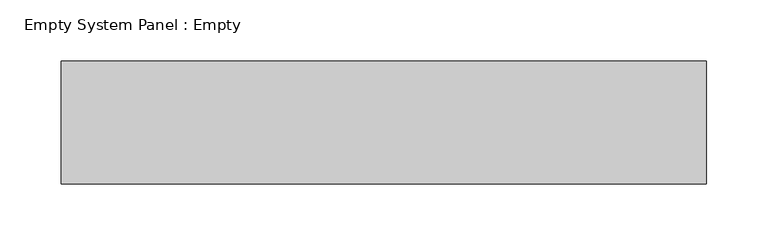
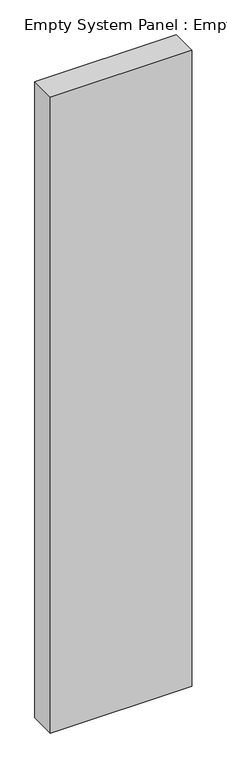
"""IFC4 building model written with IfcOpenShell, lengths in millimetres: plate geometry, Empty System Panel : Empty."""

import ifcopenshell
import ifcopenshell.guid

model = None  # the IFC model being written
_history = None  # IfcOwnerHistory: only IFC2X3 demands one
_inside = {}  # id of a spatial element -> (the spatial element, [elements in it])
_under = {}  # id of a project, library or spatial element -> (it, [spatial elements below it])
_declared = {}  # id of a project -> (the project, [libraries it declares])
_typed = {}  # id of a type object -> (the type object, [elements of that type])
_made_of = {}  # id of a material, layer set ... -> (it, [elements and type objects made of it])


def new_model(schema):
    """Start an empty IFC model of exactly this schema.

    Asked for "IFC4X3", IfcOpenShell would pick the latest addendum, in which some entities
    have other attributes; the version numbers below select the first issue.
    IFC2X3 requires an IfcOwnerHistory on every rooted entity: one is made here for all.
    """
    global model, _history
    if schema == "IFC4X3":
        model = ifcopenshell.file(schema_version=(4, 3, 0, 0))
    else:
        model = ifcopenshell.file(schema=schema)
    _inside.clear()
    _under.clear()
    _declared.clear()
    _typed.clear()
    _made_of.clear()
    _history = None
    if model.schema == "IFC2X3":
        org = make("IfcOrganization", Name="unknown")
        user = make(
            "IfcPersonAndOrganization",
            ThePerson=make("IfcPerson", FamilyName="unknown"),
            TheOrganization=org,
        )
        app = make(
            "IfcApplication",
            ApplicationDeveloper=org,
            Version="unknown",
            ApplicationFullName="unknown",
            ApplicationIdentifier="unknown",
        )
        _history = make(
            "IfcOwnerHistory",
            OwningUser=user,
            OwningApplication=app,
            ChangeAction="ADDED",
            CreationDate=0,
        )
    return model


def make(cls, **values):
    """One entity of the class cls with the attributes given. An attribute that is None is left unset."""
    return model.create_entity(
        cls, **{name: value for name, value in values.items() if value is not None}
    )


def rooted(cls, **values):
    """An entity with a GlobalId (a new one), such as an element, a storey or a relation."""
    return make(cls, GlobalId=ifcopenshell.guid.new(), OwnerHistory=_history, **values)


def si_unit(unit_type, name, prefix=None):
    """IfcSIUnit, for example si_unit("LENGTHUNIT", "METRE", prefix="MILLI")."""
    return make("IfcSIUnit", UnitType=unit_type, Prefix=prefix, Name=name)


def assignment(units):
    """IfcUnitAssignment: the units of a project."""
    return None if units is None else make("IfcUnitAssignment", Units=units)


def point(xyz):
    """IfcCartesianPoint."""
    return None if xyz is None else make("IfcCartesianPoint", Coordinates=xyz)


def direction(xyz):
    """IfcDirection."""
    return None if xyz is None else make("IfcDirection", DirectionRatios=xyz)


def frame(location, z_axis=None, x_axis=None):
    """IfcAxis2Placement3D, a coordinate frame: its origin and axes. An axis left out is left unset."""
    return make(
        "IfcAxis2Placement3D",
        Location=point(location),
        Axis=direction(z_axis),
        RefDirection=direction(x_axis),
    )


def origin():
    """The frame at (0, 0, 0) with its axes left unset."""
    return frame((0.0, 0.0, 0.0))


def origin_with_axes():
    """The frame at (0, 0, 0) with the z axis (0, 0, 1) and the x axis (1, 0, 0) written out."""
    return frame((0.0, 0.0, 0.0), z_axis=(0.0, 0.0, 1.0), x_axis=(1.0, 0.0, 0.0))


def place(relative_to, where):
    """IfcLocalPlacement: puts the frame where relative to a parent placement (None: the world)."""
    return make(
        "IfcLocalPlacement", PlacementRelTo=relative_to, RelativePlacement=where
    )


def context(
    kind, dimensions, precision=None, world=None, true_north=None, identifier=None
):
    """IfcGeometricRepresentationContext, for example the 3D "Model" context."""
    return make(
        "IfcGeometricRepresentationContext",
        ContextIdentifier=identifier,
        ContextType=kind,
        CoordinateSpaceDimension=dimensions,
        Precision=precision,
        WorldCoordinateSystem=world,
        TrueNorth=true_north,
    )


def project(units=None, contexts=None):
    """IfcProject with its units and contexts."""
    return rooted(
        "IfcProject",
        Name="project",
        RepresentationContexts=contexts,
        UnitsInContext=assignment(units),
    )


def spatial(cls, under=None, at=None, **own):
    """A site, building, storey or space (cls), placed at a placement, below another one or the project."""
    s = rooted(cls, ObjectPlacement=at, **own)
    if under is not None:
        _under.setdefault(under.id(), (under, []))[1].append(s)
    return s


def polyline(points):
    """IfcPolyline through the points."""
    return make("IfcPolyline", Points=[point(p) for p in points])


def outline(outer, holes=None, kind="AREA"):
    """IfcArbitraryClosedProfileDef: a profile drawn as a closed curve; with holes, ...WithVoids."""
    if holes is None:
        return make("IfcArbitraryClosedProfileDef", ProfileType=kind, OuterCurve=outer)
    return make(
        "IfcArbitraryProfileDefWithVoids",
        ProfileType=kind,
        OuterCurve=outer,
        InnerCurves=holes,
    )


def extrude(swept, where, along, depth):
    """IfcExtrudedAreaSolid: the profile swept, set in the frame where, extruded along a direction by depth."""
    return make(
        "IfcExtrudedAreaSolid",
        SweptArea=swept,
        Position=where,
        ExtrudedDirection=direction(along),
        Depth=depth,
    )


def shape(context_of_items, identifier, shape_type, items):
    """IfcShapeRepresentation: the items that make up one representation, for example the "Body"."""
    return make(
        "IfcShapeRepresentation",
        ContextOfItems=context_of_items,
        RepresentationIdentifier=identifier,
        RepresentationType=shape_type,
        Items=items,
    )


def source(mapping_origin, context_of_items, identifier, shape_type, items):
    """IfcRepresentationMap: a shape defined once, which mapped items show again and again."""
    return make(
        "IfcRepresentationMap",
        MappingOrigin=mapping_origin,
        MappedRepresentation=shape(context_of_items, identifier, shape_type, items),
    )


def transform(
    local_origin,
    x_axis=None,
    y_axis=None,
    z_axis=None,
    scale=None,
    scale2=None,
    scale3=None,
    uniform=True,
):
    """IfcCartesianTransformationOperator3D, or its non-uniform kind. x_axis, y_axis, z_axis: its Axis1, 2, 3."""
    if uniform:
        return make(
            "IfcCartesianTransformationOperator3D",
            Axis1=direction(x_axis),
            Axis2=direction(y_axis),
            LocalOrigin=point(local_origin),
            Scale=scale,
            Axis3=direction(z_axis),
        )
    return make(
        "IfcCartesianTransformationOperator3DnonUniform",
        Axis1=direction(x_axis),
        Axis2=direction(y_axis),
        LocalOrigin=point(local_origin),
        Scale=scale,
        Axis3=direction(z_axis),
        Scale2=scale2,
        Scale3=scale3,
    )


def mapped(mapping_source, mapping_target):
    """IfcMappedItem: shows the shape of a source again, moved by a transform."""
    return make(
        "IfcMappedItem", MappingSource=mapping_source, MappingTarget=mapping_target
    )


def made_of(thing, what):
    """Note that an element or type object is made of a material, layer set ...; save() writes the relation."""
    if what is not None:
        _made_of.setdefault(what.id(), (what, []))[1].append(thing)
    return thing


def element(
    cls,
    number,
    at=None,
    inside=None,
    cuts=None,
    type_object=None,
    material=None,
    context=None,
    identifier="Body",
    shape_type=None,
    held_by="IfcProductDefinitionShape",
    body=None,
    shapes=None,
    **own,
):
    """One element of the class cls, such as IfcWall. Its Tag is "e" and its number.

    at: its placement. inside: the storey or other place that contains it. cuts: it is an
    opening in that element (IfcRelVoidsElement). A single representation is given by context,
    identifier, shape_type and body (its items); several are given by shapes. held_by: the class
    of the entity that holds the representations. save() writes the other relations.
    """
    e = rooted(cls, Tag="e%d" % number, ObjectPlacement=at, **own)
    if body is not None:
        shapes = [shape(context, identifier, shape_type, body)]
    if shapes is not None:
        e.Representation = make(held_by, Representations=shapes)
    if inside is not None:
        _inside.setdefault(inside.id(), (inside, []))[1].append(e)
    if cuts is not None:
        rooted(
            "IfcRelVoidsElement", RelatingBuildingElement=cuts, RelatedOpeningElement=e
        )
    if type_object is not None:
        _typed.setdefault(type_object.id(), (type_object, []))[1].append(e)
    return made_of(e, material)


def aggregate(whole, parts):
    """IfcRelAggregates: a whole, such as a stair, and the parts it consists of."""
    return rooted("IfcRelAggregates", RelatingObject=whole, RelatedObjects=parts)


def save(model, path):
    """Write the relations noted so far, then the file.

    IfcRelAggregates (storeys below a building ...), IfcRelContainedInSpatialStructure (elements
    in a storey), IfcRelDefinesByType, IfcRelAssociatesMaterial and IfcRelDeclares: one each for
    every whole, place, type object, material and project.
    """
    for whole, parts in _under.values():
        aggregate(whole, parts)
    for where, things in _inside.values():
        rooted(
            "IfcRelContainedInSpatialStructure",
            RelatedElements=things,
            RelatingStructure=where,
        )
    for kind, things in _typed.values():
        rooted("IfcRelDefinesByType", RelatedObjects=things, RelatingType=kind)
    for what, things in _made_of.values():
        rooted("IfcRelAssociatesMaterial", RelatedObjects=things, RelatingMaterial=what)
    for by, libraries in _declared.values():
        rooted("IfcRelDeclares", RelatingContext=by, RelatedDefinitions=libraries)
    model.write(path)


def empty_system_panel_empty_2b10398d(model_context):
    return source(origin(), model_context, "Body", "SweptSolid", [
        extrude(outline(polyline([(262.7500001, 50.0), (-262.7500001, 50.0), (-262.7500001, 150.0), (262.7500001, 150.0), (262.7500001, 50.0)])), origin_with_axes(), (0.0, 0.0, 1.0), 2500.0),
    ])


if __name__ == "__main__":
    model = new_model("IFC4")
    model_context = context("Model", 3, world=origin())
    ifc_project = project(units=[si_unit("LENGTHUNIT", "METRE", prefix="MILLI")], contexts=[model_context])
    site = spatial("IfcSite", under=ifc_project)
    building = spatial("IfcBuilding", under=site)
    placement = place(None, origin())
    empty_system_panel_empty_shape = empty_system_panel_empty_2b10398d(model_context)
    element("IfcPlate", 1, ObjectType="Empty System Panel : Empty", at=placement, inside=building, context=model_context, shape_type="MappedRepresentation", body=[
        mapped(empty_system_panel_empty_shape, transform((0.0, 0.0, 0.0), x_axis=(1.0, 0.0, 0.0), y_axis=(0.0, 1.0, 0.0), z_axis=(0.0, 0.0, 1.0))),
    ])
    save(model, "model.ifc")
